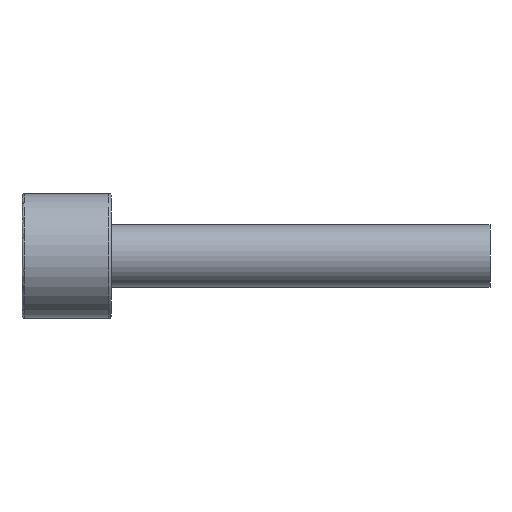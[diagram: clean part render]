
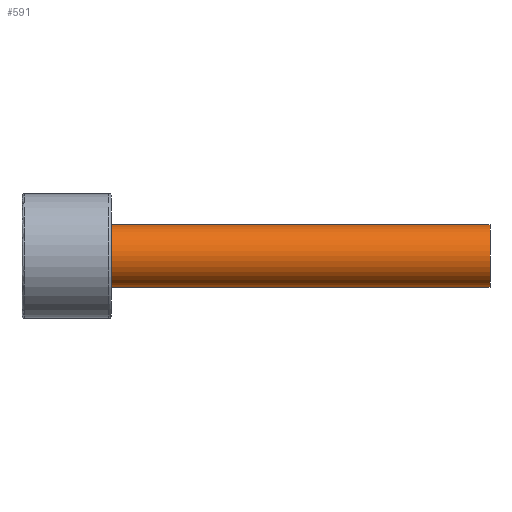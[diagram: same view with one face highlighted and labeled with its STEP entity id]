
A CAD part, front view. The second image highlights one B-rep face of the part: STEP entity #591.
In plain terms, the highlighted cylindrical face has radius 7 mm (diameter 14 mm), a partial arc.
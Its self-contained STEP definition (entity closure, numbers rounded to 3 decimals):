
#425=CARTESIAN_POINT('Vertex',(105.,0.,7.)) ;
#428=CARTESIAN_POINT('Axis2P3D Location',(105.,0.,0.)) ;
#432=CARTESIAN_POINT('Vertex',(105.,-7.,0.)) ;
#435=CARTESIAN_POINT('Axis2P3D Location',(105.,0.,0.)) ;
#439=CARTESIAN_POINT('Vertex',(105.,0.,-7.)) ;
#531=CARTESIAN_POINT('Line Origine',(105.,0.,7.)) ;
#535=CARTESIAN_POINT('Vertex',(20.,0.,7.)) ;
#538=CARTESIAN_POINT('Line Origine',(105.,0.,-7.)) ;
#542=CARTESIAN_POINT('Vertex',(20.,0.,-7.)) ;
#566=CARTESIAN_POINT('Axis2P3D Location',(105.,0.,0.)) ;
#571=CARTESIAN_POINT('Axis2P3D Location',(20.,0.,0.)) ;
#575=CARTESIAN_POINT('Vertex',(20.,-7.,0.)) ;
#578=CARTESIAN_POINT('Axis2P3D Location',(20.,0.,0.)) ;
#429=DIRECTION('Axis2P3D Direction',(1.,0.,-0.)) ;
#436=DIRECTION('Axis2P3D Direction',(1.,0.,-0.)) ;
#532=DIRECTION('Vector Direction',(-1.,0.,0.)) ;
#539=DIRECTION('Vector Direction',(-1.,0.,0.)) ;
#567=DIRECTION('Axis2P3D Direction',(-1.,-0.,-0.)) ;
#568=DIRECTION('Axis2P3D XDirection',(0.,0.,-1.)) ;
#572=DIRECTION('Axis2P3D Direction',(-1.,-0.,-0.)) ;
#579=DIRECTION('Axis2P3D Direction',(-1.,-0.,-0.)) ;
#430=AXIS2_PLACEMENT_3D('Circle Axis2P3D',#428,#429,$) ;
#437=AXIS2_PLACEMENT_3D('Circle Axis2P3D',#435,#436,$) ;
#569=AXIS2_PLACEMENT_3D('Cylinder Axis2P3D',#566,#567,#568) ;
#573=AXIS2_PLACEMENT_3D('Circle Axis2P3D',#571,#572,$) ;
#580=AXIS2_PLACEMENT_3D('Circle Axis2P3D',#578,#579,$) ;
#584=ORIENTED_EDGE('',*,*,#544,.T.) ;
#585=ORIENTED_EDGE('',*,*,#441,.F.) ;
#586=ORIENTED_EDGE('',*,*,#434,.F.) ;
#587=ORIENTED_EDGE('',*,*,#537,.T.) ;
#588=ORIENTED_EDGE('',*,*,#577,.T.) ;
#589=ORIENTED_EDGE('',*,*,#582,.T.) ;
#533=VECTOR('Line Direction',#532,1.) ;
#540=VECTOR('Line Direction',#539,1.) ;
#591=ADVANCED_FACE('367-14X105',(#590),#570,.T.) ;
#431=CIRCLE('generated circle',#430,7.) ;
#438=CIRCLE('generated circle',#437,7.) ;
#574=CIRCLE('generated circle',#573,7.) ;
#581=CIRCLE('generated circle',#580,7.) ;
#570=CYLINDRICAL_SURFACE('generated cylinder',#569,7.) ;
#434=EDGE_CURVE('',#426,#433,#431,.T.) ;
#441=EDGE_CURVE('',#433,#440,#438,.T.) ;
#537=EDGE_CURVE('',#426,#536,#534,.T.) ;
#544=EDGE_CURVE('',#543,#440,#541,.F.) ;
#577=EDGE_CURVE('',#536,#576,#574,.F.) ;
#582=EDGE_CURVE('',#576,#543,#581,.F.) ;
#583=EDGE_LOOP('',(#584,#585,#586,#587,#588,#589)) ;
#590=FACE_OUTER_BOUND('',#583,.T.) ;
#534=LINE('Line',#531,#533) ;
#541=LINE('Line',#538,#540) ;
#426=VERTEX_POINT('',#425) ;
#433=VERTEX_POINT('',#432) ;
#440=VERTEX_POINT('',#439) ;
#536=VERTEX_POINT('',#535) ;
#543=VERTEX_POINT('',#542) ;
#576=VERTEX_POINT('',#575) ;
